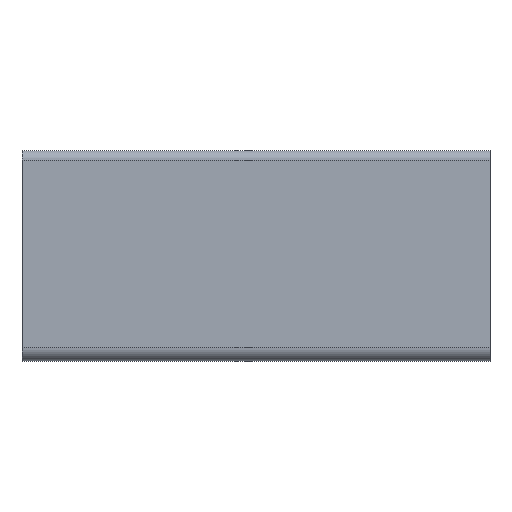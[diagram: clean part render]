
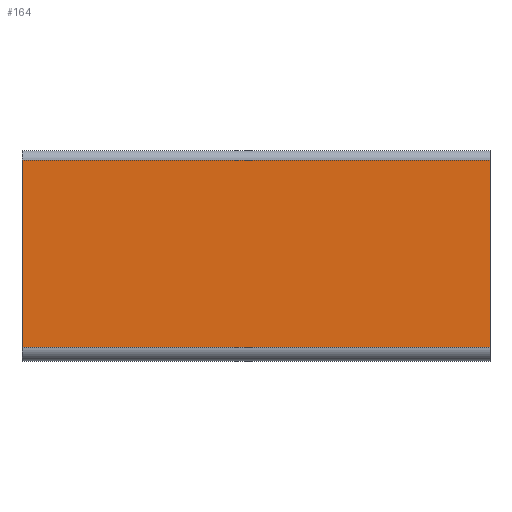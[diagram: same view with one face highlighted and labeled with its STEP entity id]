
A CAD part, left-side view. The second image highlights one B-rep face of the part: STEP entity #164.
In plain terms, the highlighted planar face has unit normal (-1, 0, 0).
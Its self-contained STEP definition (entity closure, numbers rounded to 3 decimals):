
#164 = ADVANCED_FACE( '', ( #353 ), #354, .T. );
#353 = FACE_OUTER_BOUND( '', #564, .T. );
#354 = PLANE( '', #565 );
#564 = EDGE_LOOP( '', ( #1011, #1012, #1013, #1014 ) );
#565 = AXIS2_PLACEMENT_3D( '', #1015, #1016, #1017 );
#1011 = ORIENTED_EDGE( '', *, *, #1354, .F. );
#1012 = ORIENTED_EDGE( '', *, *, #1495, .F. );
#1013 = ORIENTED_EDGE( '', *, *, #1514, .T. );
#1014 = ORIENTED_EDGE( '', *, *, #1515, .T. );
#1015 = CARTESIAN_POINT( '', ( -22.5, 100., 20.5 ) );
#1016 = DIRECTION( '', ( -1., 0., 0. ) );
#1017 = DIRECTION( '', ( 0., 0., 1. ) );
#1354 = EDGE_CURVE( '', #1638, #1640, #1641, .T. );
#1495 = EDGE_CURVE( '', #1868, #1638, #1870, .T. );
#1514 = EDGE_CURVE( '', #1868, #1894, #1895, .T. );
#1515 = EDGE_CURVE( '', #1894, #1640, #1896, .T. );
#1638 = VERTEX_POINT( '', #2051 );
#1640 = VERTEX_POINT( '', #2053 );
#1641 = LINE( '', #2054, #2055 );
#1868 = VERTEX_POINT( '', #2358 );
#1870 = LINE( '', #2360, #2361 );
#1894 = VERTEX_POINT( '', #2393 );
#1895 = LINE( '', #2394, #2395 );
#1896 = LINE( '', #2396, #2397 );
#2051 = CARTESIAN_POINT( '', ( -22.5, 0., 20.5 ) );
#2053 = CARTESIAN_POINT( '', ( -22.5, 0., -19.5 ) );
#2054 = CARTESIAN_POINT( '', ( -22.5, 0., 20.5 ) );
#2055 = VECTOR( '', #2554, 1000. );
#2358 = CARTESIAN_POINT( '', ( -22.5, 100., 20.5 ) );
#2360 = CARTESIAN_POINT( '', ( -22.5, 100., 20.5 ) );
#2361 = VECTOR( '', #2751, 1000. );
#2393 = CARTESIAN_POINT( '', ( -22.5, 100., -19.5 ) );
#2394 = CARTESIAN_POINT( '', ( -22.5, 100., 20.5 ) );
#2395 = VECTOR( '', #2769, 1000. );
#2396 = CARTESIAN_POINT( '', ( -22.5, 100., -19.5 ) );
#2397 = VECTOR( '', #2770, 1000. );
#2554 = DIRECTION( '', ( 0., 0., -1. ) );
#2751 = DIRECTION( '', ( 0., -1., 0. ) );
#2769 = DIRECTION( '', ( 0., 0., -1. ) );
#2770 = DIRECTION( '', ( 0., -1., 0. ) );
